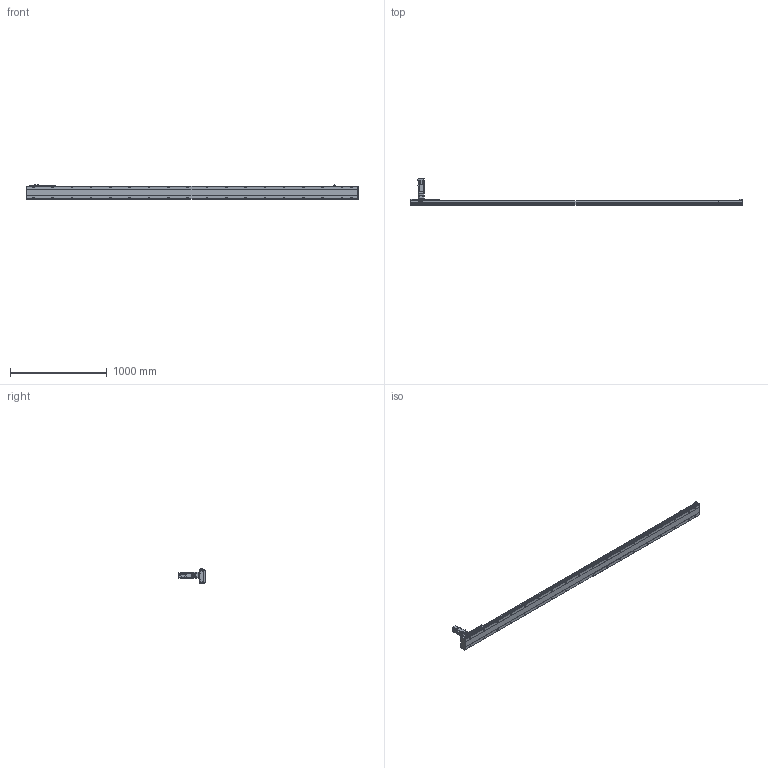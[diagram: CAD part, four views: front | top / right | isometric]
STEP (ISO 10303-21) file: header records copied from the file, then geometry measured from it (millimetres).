
FILE_DESCRIPTION(/* description */ ('STEP AP203'),/* implementation_level */ '2;1');
FILE_NAME(/* name */ 'SHS14A-L10-S3100-BC-T40-C1-N(0)',/* time_stamp */ '2023-03-27T08:52:49+02:00',/* author */ ('License CC BY-ND 4.0'),/* organization */ ('CADENAS'),/* preprocessor_version */ 'ST-DEVELOPER v19.3',/* originating_system */ 'PARTsolutions',/* authorisation */ ' ');
FILE_SCHEMA (('CONFIG_CONTROL_DESIGN'));
Length unit declared in the file: millimetre
Products named in the file (7): SHS14A-L10-S3100-BC-T40-C1-N(0); PSC140-sensor; T40-p1; SHS14AT_body3; SHS14A-3100_slider; SHS14A_body2; SHS14A-S3100-BC-T40-C1(0)_body
Assembly tree (13 placements, depth 2):
  SHS14A-L10-S3100-BC-T40-C1-N(0)
    PSC140-sensor  x3
    T40-p1
    SHS14AT_body3
    SHS14A-3100_slider
    SHS14A_body2  x6
    SHS14A-S3100-BC-T40-C1(0)_body
Bounding box: 3440 x 272.7 x 150.9 mm (x, y, z)
Volume: 13978372.5 mm3; surface area: 2170356.4 mm2
Topology: 13 solids, 13 shells, 2188 faces, 5583 edges, 3650 vertices
Faces by surface type: plane 1503, cylinder 587, cone 88, torus 10
Full cylindrical faces by diameter (mm): 2.8 x3, 4.134 x24, 4.2 x7, 4.4 x24, 4.5 x24, 4.6 x3, 4.8 x24, 4.917 x44, 5 x8, 5.5 x11, 5.94 x6, 6 x2, 6.6 x36, 8 x24, 8.49 x4, 8.5 x4, 9 x4, 10.5 x36, 13.964 x1, 14 x1, 14.182 x1, 16 x1, 18.974 x1, 19.274 x1, 19.774 x1, 19.8 x1, 34.442 x1, 42 x1, 50 x5
Entity records: 36006 total; most frequent: CARTESIAN_POINT 6462, DIRECTION 6083, ORIENTED_EDGE 5562, EDGE_CURVE 2781, AXIS2_PLACEMENT_3D 2145, VERTEX_POINT 1996, EDGE_LOOP 1859, FACE_BOUND 1859
